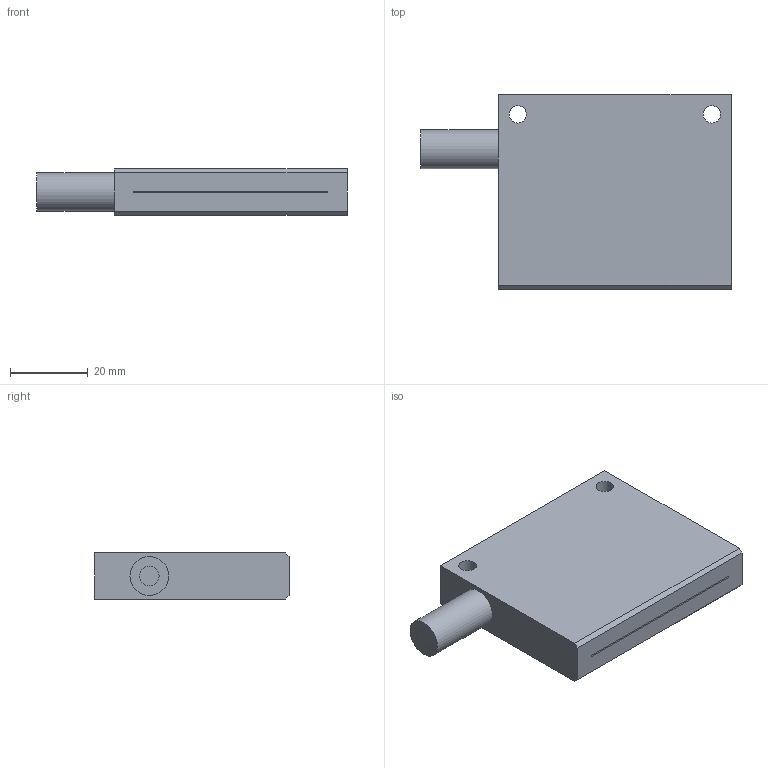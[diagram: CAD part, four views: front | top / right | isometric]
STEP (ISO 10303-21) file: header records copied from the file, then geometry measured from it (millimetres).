
FILE_DESCRIPTION(/* description */ (''),/* implementation_level */ '2;1');
FILE_NAME(/* name */ '',/* time_stamp */ '2023-02-24T17:42:54+09:00',/* author */ (''),/* organization */ (''),/* preprocessor_version */ 'ST-DEVELOPER v19.2',/* originating_system */ 'Autodesk Translation Framework v11.17.0.187',/* authorisation */ '');
FILE_SCHEMA (('AUTOMOTIVE_DESIGN { 1 0 10303 214 3 1 1 }'));
Length unit declared in the file: millimetre
Products named in the file (1): LR50×0.4 照射部
Bounding box: 80 x 50 x 12 mm (x, y, z)
Volume: 37129.1 mm3; surface area: 10873.1 mm2
Topology: 4 solids, 4 shells, 29 faces, 57 edges, 38 vertices
Faces by surface type: plane 24, cylinder 5
Full cylindrical faces by diameter (mm): 4.5 x2, 5 x2, 10 x1
Entity records: 779 total; most frequent: DIRECTION 127, CARTESIAN_POINT 125, ORIENTED_EDGE 114, EDGE_CURVE 57, LINE 47, VECTOR 47, AXIS2_PLACEMENT_3D 40, VERTEX_POINT 38
